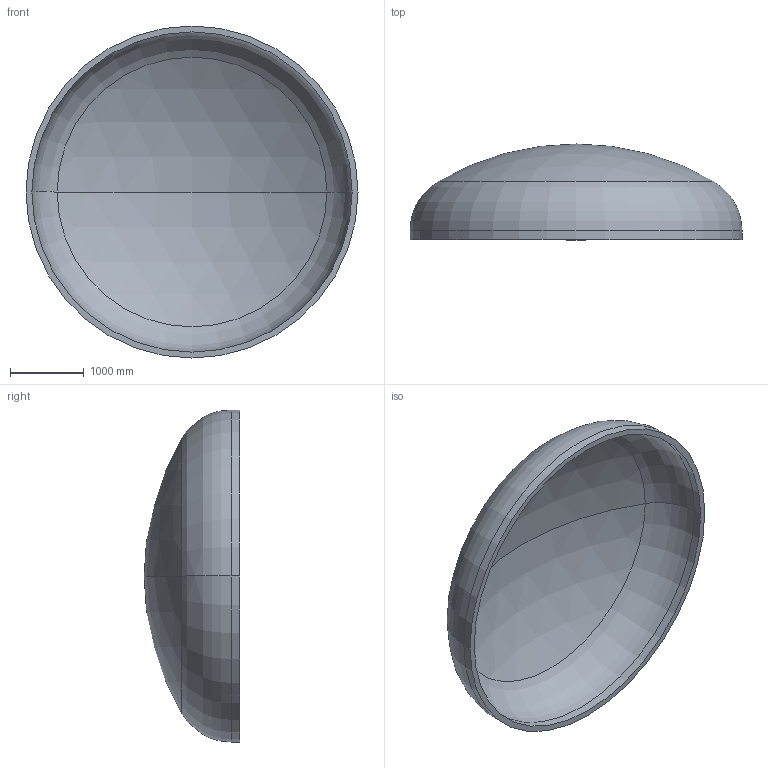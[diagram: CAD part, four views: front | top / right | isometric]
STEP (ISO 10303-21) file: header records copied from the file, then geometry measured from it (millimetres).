
FILE_DESCRIPTION (( 'STEP AP203' ), '1' );
FILE_NAME ('DIN 28013 Korbbogenform_-_Boden DIN 28013 - 4500 x 120 - I - s=80.step', '2016-07-01T23:43:31', ( '' ), ( '' ), 'SwSTEP 2.0', 'SolidWorks 2013', '' );
FILE_SCHEMA (( 'CONFIG_CONTROL_DESIGN' ));
Length unit declared in the file: millimetre
Products named in the file (1): DIN 28013 Korbbogenform_-_Boden DIN 28013 - 4500 x 120 - I - s=80
Bounding box: 4500 x 1297.32 x 4500 mm (x, y, z)
Volume: 1855643202.4 mm3; surface area: 47515334.8 mm2
Topology: 1 solids, 1 shells, 13 faces, 24 edges, 14 vertices
Faces by surface type: torus 4, cylinder 4, sphere 4, plane 1
Entity records: 407 total; most frequent: DIRECTION 72, CARTESIAN_POINT 52, ORIENTED_EDGE 48, AXIS2_PLACEMENT_3D 34, EDGE_CURVE 24, CIRCLE 20, VERTEX_POINT 14, EDGE_LOOP 14
